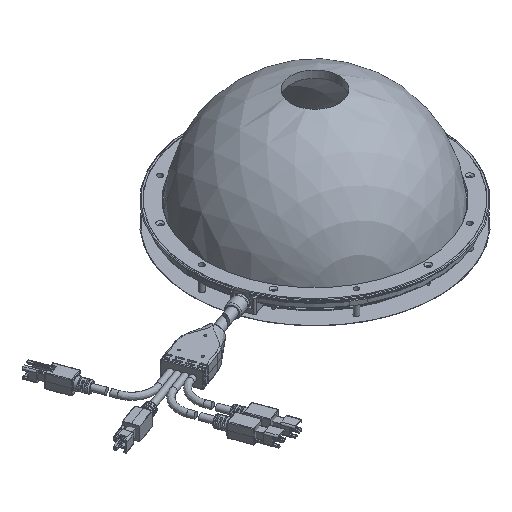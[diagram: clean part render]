
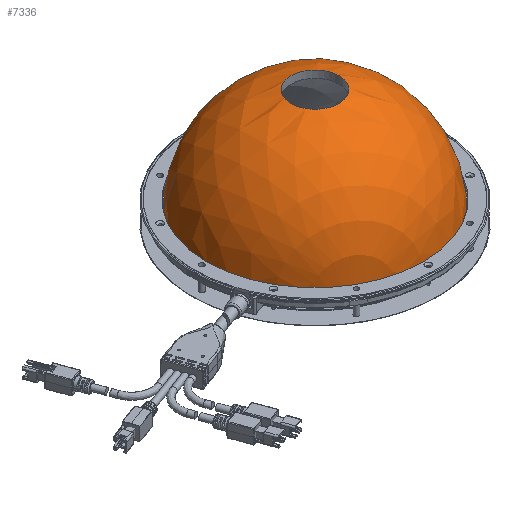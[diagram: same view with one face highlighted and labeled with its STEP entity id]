
A CAD part, isometric view. The second image highlights one B-rep face of the part: STEP entity #7336.
In plain terms, the highlighted spherical face has radius 76 mm.
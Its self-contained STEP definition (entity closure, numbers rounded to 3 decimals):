
#379 = CIRCLE ( 'NONE', #10120, 75.835 ) ;
#1154 = FACE_OUTER_BOUND ( 'NONE', #34025, .T. ) ;
#4226 = AXIS2_PLACEMENT_3D ( 'NONE', #23666, #23901, #29708 ) ;
#4471 = CARTESIAN_POINT ( 'NONE',  ( 0., 0., 8.9 ) ) ;
#4620 = VERTEX_POINT ( 'NONE', #6452 ) ;
#6452 = CARTESIAN_POINT ( 'NONE',  ( 37.918, 65.675, 13.9 ) ) ;
#7331 = DIRECTION ( 'NONE',  ( 0.5, 0.866, 0. ) ) ;
#7336 = ADVANCED_FACE ( 'NONE', ( #1154, #32188 ), #15256, .T. ) ;
#9456 = ORIENTED_EDGE ( 'NONE', *, *, #26004, .F. ) ;
#10120 = AXIS2_PLACEMENT_3D ( 'NONE', #34716, #19601, #7331 ) ;
#15256 = SPHERICAL_SURFACE ( 'NONE', #25312, 76. ) ;
#18254 = EDGE_CURVE ( 'NONE', #28196, #28196, #34152, .T. ) ;
#19171 = DIRECTION ( 'NONE',  ( 0.5, 0.866, 0. ) ) ;
#19601 = DIRECTION ( 'NONE',  ( 0., 0., -1. ) ) ;
#22727 = EDGE_LOOP ( 'NONE', ( #35712 ) ) ;
#23666 = CARTESIAN_POINT ( 'NONE',  ( 0., 0., 82.974 ) ) ;
#23901 = DIRECTION ( 'NONE',  ( 0., 0., -1. ) ) ;
#25312 = AXIS2_PLACEMENT_3D ( 'NONE', #4471, #19171, #37740 ) ;
#26004 = EDGE_CURVE ( 'NONE', #4620, #4620, #379, .T. ) ;
#27406 = CARTESIAN_POINT ( 'NONE',  ( 8.5, 14.722, 82.974 ) ) ;
#28196 = VERTEX_POINT ( 'NONE', #27406 ) ;
#29708 = DIRECTION ( 'NONE',  ( 0.5, 0.866, 0. ) ) ;
#32188 = FACE_OUTER_BOUND ( 'NONE', #22727, .T. ) ;
#34025 = EDGE_LOOP ( 'NONE', ( #9456 ) ) ;
#34152 = CIRCLE ( 'NONE', #4226, 17. ) ;
#34716 = CARTESIAN_POINT ( 'NONE',  ( 0., 0., 13.9 ) ) ;
#35712 = ORIENTED_EDGE ( 'NONE', *, *, #18254, .T. ) ;
#37740 = DIRECTION ( 'NONE',  ( -0.866, 0.5, 0. ) ) ;
